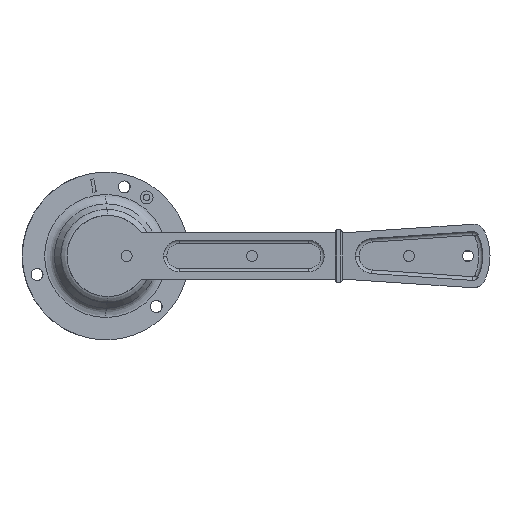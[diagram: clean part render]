
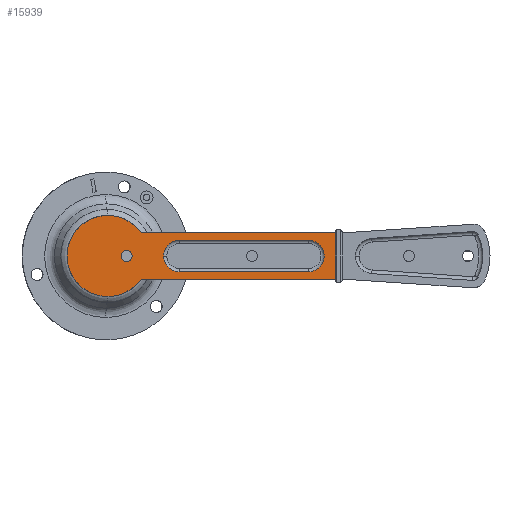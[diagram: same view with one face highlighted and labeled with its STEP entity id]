
A CAD part, front view. The second image highlights one B-rep face of the part: STEP entity #15939.
In plain terms, the highlighted planar face has unit normal (0, -1, 0).
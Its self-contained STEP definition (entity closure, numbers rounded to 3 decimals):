
#3280 = CARTESIAN_POINT ( 'NONE',  ( -52.975, 9.62, 20.235 ) ) ;
#10750 = DIRECTION ( 'NONE',  ( 1., 0., 0. ) ) ;
#10751 = DIRECTION ( 'NONE',  ( 0., -1., 0. ) ) ;
#10752 = CARTESIAN_POINT ( 'NONE',  ( -71.079, 9.62, 7.735 ) ) ;
#10753 = AXIS2_PLACEMENT_3D ( 'NONE', #10752, #10751, #10750 ) ;
#10754 = CIRCLE ( 'NONE', #10753, 22. ) ;
#10764 = CARTESIAN_POINT ( 'NONE',  ( -63.806, 9.62, 7.735 ) ) ;
#10765 = CARTESIAN_POINT ( 'NONE',  ( -57.806, 9.62, 7.735 ) ) ;
#10766 = DIRECTION ( 'NONE',  ( 1., 0., 0. ) ) ;
#10767 = DIRECTION ( 'NONE',  ( 0., -1., 0. ) ) ;
#10768 = CARTESIAN_POINT ( 'NONE',  ( -60.806, 9.62, 7.735 ) ) ;
#10769 = AXIS2_PLACEMENT_3D ( 'NONE', #10768, #10767, #10766 ) ;
#10770 = CIRCLE ( 'NONE', #10769, 3. ) ;
#10829 = CARTESIAN_POINT ( 'NONE',  ( -32.206, 9.62, -0.765 ) ) ;
#10859 = CARTESIAN_POINT ( 'NONE',  ( 52.194, 9.62, -4.765 ) ) ;
#10860 = DIRECTION ( 'NONE',  ( 0., 0., -1. ) ) ;
#10861 = VECTOR ( 'NONE', #10860, 1000. ) ;
#10862 = CARTESIAN_POINT ( 'NONE',  ( 52.194, 9.62, 28.735 ) ) ;
#10868 = LINE ( 'NONE', #10862, #10861 ) ;
#10880 = CARTESIAN_POINT ( 'NONE',  ( -93.079, 9.62, 7.735 ) ) ;
#10909 = LINE ( 'NONE', #10954, #10953 ) ;
#10910 = CARTESIAN_POINT ( 'NONE',  ( 52.194, 9.62, 20.235 ) ) ;
#10923 = DIRECTION ( 'NONE',  ( 1., 0., 0. ) ) ;
#10924 = VECTOR ( 'NONE', #10923, 1000. ) ;
#10925 = CARTESIAN_POINT ( 'NONE',  ( -32.206, 9.62, -0.765 ) ) ;
#10926 = LINE ( 'NONE', #10925, #10924 ) ;
#10941 = DIRECTION ( 'NONE',  ( 1., 0., 0. ) ) ;
#10942 = DIRECTION ( 'NONE',  ( 0., -1., 0. ) ) ;
#10943 = CARTESIAN_POINT ( 'NONE',  ( -32.206, 9.62, 7.735 ) ) ;
#10944 = AXIS2_PLACEMENT_3D ( 'NONE', #10943, #10942, #10941 ) ;
#10945 = CIRCLE ( 'NONE', #10944, 8.5 ) ;
#10952 = DIRECTION ( 'NONE',  ( -1., 0., 0. ) ) ;
#10953 = VECTOR ( 'NONE', #10952, 1000. ) ;
#10954 = CARTESIAN_POINT ( 'NONE',  ( 37.794, 9.62, 16.235 ) ) ;
#12127 = DIRECTION ( 'NONE',  ( 1., 0., 0. ) ) ;
#12128 = DIRECTION ( 'NONE',  ( 0., -1., 0. ) ) ;
#12129 = CARTESIAN_POINT ( 'NONE',  ( -60.806, 9.62, 7.735 ) ) ;
#12130 = AXIS2_PLACEMENT_3D ( 'NONE', #12129, #12128, #12127 ) ;
#12131 = CIRCLE ( 'NONE', #12130, 3. ) ;
#12132 = FACE_BOUND ( 'NONE', #15940, .T. ) ;
#12144 = DIRECTION ( 'NONE',  ( 1., 0., 0. ) ) ;
#12145 = DIRECTION ( 'NONE',  ( 0., -1., 0. ) ) ;
#12146 = CARTESIAN_POINT ( 'NONE',  ( -71.079, 9.62, 7.735 ) ) ;
#12147 = AXIS2_PLACEMENT_3D ( 'NONE', #12146, #12145, #12144 ) ;
#12148 = CIRCLE ( 'NONE', #12147, 22. ) ;
#12149 = DIRECTION ( 'NONE',  ( 1., 0., 0. ) ) ;
#12150 = VECTOR ( 'NONE', #12149, 1000. ) ;
#12151 = CARTESIAN_POINT ( 'NONE',  ( -91.806, 9.62, -4.765 ) ) ;
#12157 = LINE ( 'NONE', #12151, #12150 ) ;
#12165 = DIRECTION ( 'NONE',  ( -1., 0., 0. ) ) ;
#12166 = VECTOR ( 'NONE', #12165, 1000. ) ;
#12167 = CARTESIAN_POINT ( 'NONE',  ( -91.806, 9.62, 20.235 ) ) ;
#12168 = LINE ( 'NONE', #12167, #12166 ) ;
#12169 = CARTESIAN_POINT ( 'NONE',  ( -52.975, 9.62, -4.765 ) ) ;
#12186 = DIRECTION ( 'NONE',  ( -1., 0., 0. ) ) ;
#12187 = DIRECTION ( 'NONE',  ( 0., 1., 0. ) ) ;
#12188 = CARTESIAN_POINT ( 'NONE',  ( -91.806, 9.62, 28.735 ) ) ;
#12189 = AXIS2_PLACEMENT_3D ( 'NONE', #12188, #12187, #12186 ) ;
#12190 = PLANE ( 'NONE',  #12189 ) ;
#12191 = FACE_BOUND ( 'NONE', #15926, .T. ) ;
#12192 = FACE_OUTER_BOUND ( 'NONE', #15997, .T. ) ;
#12255 = CARTESIAN_POINT ( 'NONE',  ( -40.706, 9.62, 7.735 ) ) ;
#12313 = CARTESIAN_POINT ( 'NONE',  ( -32.206, 9.62, 16.235 ) ) ;
#12314 = DIRECTION ( 'NONE',  ( 1., 0., 0. ) ) ;
#12315 = DIRECTION ( 'NONE',  ( 0., -1., 0. ) ) ;
#12316 = CARTESIAN_POINT ( 'NONE',  ( -32.206, 9.62, 7.735 ) ) ;
#12317 = AXIS2_PLACEMENT_3D ( 'NONE', #12316, #12315, #12314 ) ;
#12318 = CIRCLE ( 'NONE', #12317, 8.5 ) ;
#12328 = CARTESIAN_POINT ( 'NONE',  ( 37.794, 9.62, 16.235 ) ) ;
#12329 = DIRECTION ( 'NONE',  ( 1., 0., 0. ) ) ;
#12330 = DIRECTION ( 'NONE',  ( 0., -1., 0. ) ) ;
#12331 = CARTESIAN_POINT ( 'NONE',  ( 37.794, 9.62, 7.735 ) ) ;
#12332 = AXIS2_PLACEMENT_3D ( 'NONE', #12331, #12330, #12329 ) ;
#12333 = CIRCLE ( 'NONE', #12332, 8.5 ) ;
#12334 = CARTESIAN_POINT ( 'NONE',  ( 37.794, 9.62, -0.765 ) ) ;
#14500 = VERTEX_POINT ( 'NONE', #3280 ) ;
#15105 = EDGE_CURVE ( 'NONE', #15107, #15106, #10770, .T. ) ;
#15106 = VERTEX_POINT ( 'NONE', #10765 ) ;
#15107 = VERTEX_POINT ( 'NONE', #10764 ) ;
#15113 = EDGE_CURVE ( 'NONE', #14500, #15184, #10754, .T. ) ;
#15146 = VERTEX_POINT ( 'NONE', #10829 ) ;
#15184 = VERTEX_POINT ( 'NONE', #10880 ) ;
#15191 = EDGE_CURVE ( 'NONE', #15219, #15192, #10868, .T. ) ;
#15192 = VERTEX_POINT ( 'NONE', #10859 ) ;
#15208 = EDGE_CURVE ( 'NONE', #15146, #16059, #10926, .T. ) ;
#15219 = VERTEX_POINT ( 'NONE', #10910 ) ;
#15221 = EDGE_CURVE ( 'NONE', #16062, #16021, #10909, .T. ) ;
#15226 = EDGE_CURVE ( 'NONE', #16018, #15146, #10945, .T. ) ;
#15923 = EDGE_CURVE ( 'NONE', #15953, #15192, #12157, .T. ) ;
#15924 = ORIENTED_EDGE ( 'NONE', *, *, #15191, .F. ) ;
#15925 = ORIENTED_EDGE ( 'NONE', *, *, #15958, .T. ) ;
#15926 = EDGE_LOOP ( 'NONE', ( #15927, #15928, #15929, #15983, #15984 ) ) ;
#15927 = ORIENTED_EDGE ( 'NONE', *, *, #15208, .F. ) ;
#15928 = ORIENTED_EDGE ( 'NONE', *, *, #15226, .F. ) ;
#15929 = ORIENTED_EDGE ( 'NONE', *, *, #16019, .F. ) ;
#15930 = EDGE_CURVE ( 'NONE', #15184, #15953, #12148, .T. ) ;
#15938 = EDGE_CURVE ( 'NONE', #15106, #15107, #12131, .T. ) ;
#15939 = ADVANCED_FACE ( 'NONE', ( #12132, #12192, #12191 ), #12190, .F. ) ;
#15940 = EDGE_LOOP ( 'NONE', ( #15941, #15996 ) ) ;
#15941 = ORIENTED_EDGE ( 'NONE', *, *, #15938, .F. ) ;
#15953 = VERTEX_POINT ( 'NONE', #12169 ) ;
#15958 = EDGE_CURVE ( 'NONE', #15219, #14500, #12168, .T. ) ;
#15983 = ORIENTED_EDGE ( 'NONE', *, *, #15221, .F. ) ;
#15984 = ORIENTED_EDGE ( 'NONE', *, *, #16061, .F. ) ;
#15996 = ORIENTED_EDGE ( 'NONE', *, *, #15105, .F. ) ;
#15997 = EDGE_LOOP ( 'NONE', ( #15998, #15999, #16000, #15924, #15925 ) ) ;
#15998 = ORIENTED_EDGE ( 'NONE', *, *, #15113, .T. ) ;
#15999 = ORIENTED_EDGE ( 'NONE', *, *, #15930, .T. ) ;
#16000 = ORIENTED_EDGE ( 'NONE', *, *, #15923, .T. ) ;
#16018 = VERTEX_POINT ( 'NONE', #12255 ) ;
#16019 = EDGE_CURVE ( 'NONE', #16021, #16018, #12318, .T. ) ;
#16021 = VERTEX_POINT ( 'NONE', #12313 ) ;
#16059 = VERTEX_POINT ( 'NONE', #12334 ) ;
#16061 = EDGE_CURVE ( 'NONE', #16059, #16062, #12333, .T. ) ;
#16062 = VERTEX_POINT ( 'NONE', #12328 ) ;
